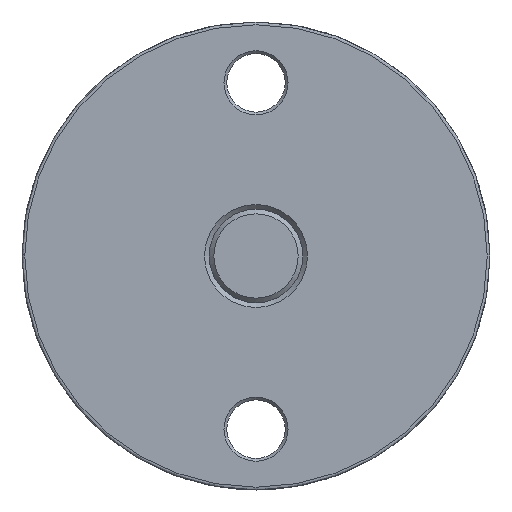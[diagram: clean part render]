
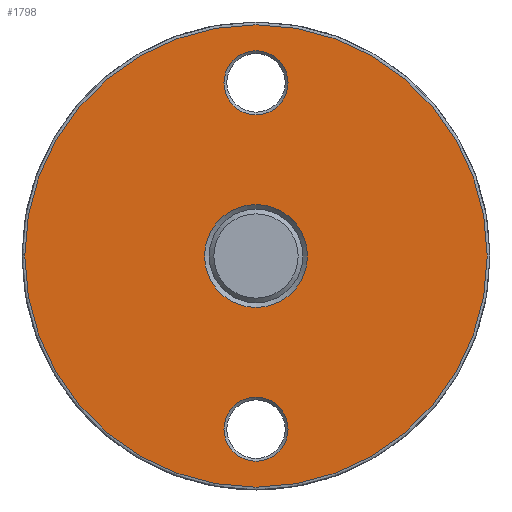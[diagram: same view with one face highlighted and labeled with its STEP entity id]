
A CAD part, left-side view. The second image highlights one B-rep face of the part: STEP entity #1798.
In plain terms, the highlighted planar face has unit normal (-1, 0, 0).
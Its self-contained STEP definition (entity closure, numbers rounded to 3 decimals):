
#957=CARTESIAN_POINT('',(-525.136,-488.109,-49.4));
#958=VERTEX_POINT('',#957);
#985=CARTESIAN_POINT('',(-525.136,-488.109,49.4));
#986=VERTEX_POINT('',#985);
#987=CARTESIAN_POINT('',(-525.136,-488.109,0.0));
#988=DIRECTION('',(-1.0,0.0,0.0));
#989=DIRECTION('',(0.0,0.0,-1.0));
#990=AXIS2_PLACEMENT_3D('',#987,#988,#989);
#991=CIRCLE('',#990,49.4);
#992=EDGE_CURVE('',#986,#958,#991,.T.);
#994=CARTESIAN_POINT('',(-525.136,-488.109,0.0));
#995=DIRECTION('',(-1.0,0.0,0.0));
#996=DIRECTION('',(0.0,0.0,-1.0));
#997=AXIS2_PLACEMENT_3D('',#994,#995,#996);
#998=CIRCLE('',#997,49.4);
#999=EDGE_CURVE('',#958,#986,#998,.T.);
#1631=CARTESIAN_POINT('',(-525.136,-499.109,0.));
#1632=VERTEX_POINT('',#1631);
#1642=CARTESIAN_POINT('',(-525.136,-477.109,0.));
#1643=VERTEX_POINT('',#1642);
#1644=CARTESIAN_POINT('',(-525.136,-488.109,0.));
#1645=DIRECTION('',(-1.0,0.0,0.0));
#1646=DIRECTION('',(0.0,-1.0,0.0));
#1647=AXIS2_PLACEMENT_3D('',#1644,#1645,#1646);
#1648=CIRCLE('',#1647,11.0);
#1649=EDGE_CURVE('',#1632,#1643,#1648,.T.);
#1651=CARTESIAN_POINT('',(-525.136,-488.109,0.));
#1652=DIRECTION('',(-1.0,0.0,0.0));
#1653=DIRECTION('',(0.0,-1.0,0.0));
#1654=AXIS2_PLACEMENT_3D('',#1651,#1652,#1653);
#1655=CIRCLE('',#1654,11.0);
#1656=EDGE_CURVE('',#1643,#1632,#1655,.T.);
#1745=CARTESIAN_POINT('',(-525.136,-389.309,98.8));
#1746=DIRECTION('',(1.0,0.0,0.0));
#1747=DIRECTION('',(0.0,-1.0,0.0));
#1748=AXIS2_PLACEMENT_3D('',#1745,#1746,#1747);
#1749=PLANE('',#1748);
#1750=ORIENTED_EDGE('',*,*,#999,.T.);
#1751=ORIENTED_EDGE('',*,*,#992,.T.);
#1752=EDGE_LOOP('',(#1750,#1751));
#1753=FACE_OUTER_BOUND('',#1752,.T.);
#1754=ORIENTED_EDGE('',*,*,#1656,.F.);
#1755=ORIENTED_EDGE('',*,*,#1649,.F.);
#1756=EDGE_LOOP('',(#1754,#1755));
#1757=FACE_BOUND('',#1756,.T.);
#1758=CARTESIAN_POINT('',(-525.136,-481.259,-37.0));
#1759=VERTEX_POINT('',#1758);
#1760=CARTESIAN_POINT('',(-525.136,-494.959,-37.0));
#1761=VERTEX_POINT('',#1760);
#1762=CARTESIAN_POINT('',(-525.136,-488.109,-37.0));
#1763=DIRECTION('',(-1.0,0.0,0.0));
#1764=DIRECTION('',(0.0,-1.0,0.0));
#1765=AXIS2_PLACEMENT_3D('',#1762,#1763,#1764);
#1766=CIRCLE('',#1765,6.85);
#1767=EDGE_CURVE('',#1759,#1761,#1766,.T.);
#1768=ORIENTED_EDGE('',*,*,#1767,.F.);
#1769=CARTESIAN_POINT('',(-525.136,-488.109,-37.0));
#1770=DIRECTION('',(-1.0,0.0,0.0));
#1771=DIRECTION('',(0.0,-1.0,0.0));
#1772=AXIS2_PLACEMENT_3D('',#1769,#1770,#1771);
#1773=CIRCLE('',#1772,6.85);
#1774=EDGE_CURVE('',#1761,#1759,#1773,.T.);
#1775=ORIENTED_EDGE('',*,*,#1774,.F.);
#1776=EDGE_LOOP('',(#1768,#1775));
#1777=FACE_BOUND('',#1776,.T.);
#1778=CARTESIAN_POINT('',(-525.136,-481.259,37.0));
#1779=VERTEX_POINT('',#1778);
#1780=CARTESIAN_POINT('',(-525.136,-494.959,37.0));
#1781=VERTEX_POINT('',#1780);
#1782=CARTESIAN_POINT('',(-525.136,-488.109,37.0));
#1783=DIRECTION('',(-1.0,0.0,0.0));
#1784=DIRECTION('',(0.0,-1.0,0.0));
#1785=AXIS2_PLACEMENT_3D('',#1782,#1783,#1784);
#1786=CIRCLE('',#1785,6.85);
#1787=EDGE_CURVE('',#1779,#1781,#1786,.T.);
#1788=ORIENTED_EDGE('',*,*,#1787,.F.);
#1789=CARTESIAN_POINT('',(-525.136,-488.109,37.0));
#1790=DIRECTION('',(-1.0,0.0,0.0));
#1791=DIRECTION('',(0.0,-1.0,0.0));
#1792=AXIS2_PLACEMENT_3D('',#1789,#1790,#1791);
#1793=CIRCLE('',#1792,6.85);
#1794=EDGE_CURVE('',#1781,#1779,#1793,.T.);
#1795=ORIENTED_EDGE('',*,*,#1794,.F.);
#1796=EDGE_LOOP('',(#1788,#1795));
#1797=FACE_BOUND('',#1796,.T.);
#1798=ADVANCED_FACE('',(#1753,#1757,#1777,#1797),#1749,.F.);
